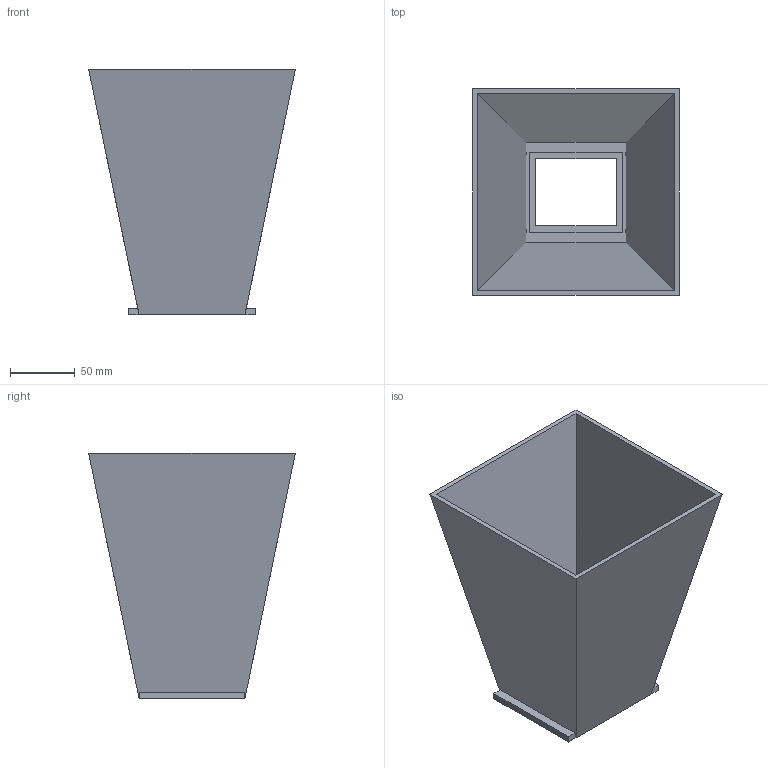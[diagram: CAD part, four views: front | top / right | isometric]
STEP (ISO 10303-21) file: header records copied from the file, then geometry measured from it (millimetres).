
FILE_DESCRIPTION(('Open CASCADE Model'),'2;1');
FILE_NAME('Open CASCADE Shape Model','2026-09-10T23:36:50',('Author'),( 'Open CASCADE'),'Open CASCADE STEP processor 7.9','Open CASCADE 7.9' ,'Unknown');
FILE_SCHEMA(('AUTOMOTIVE_DESIGN { 1 0 10303 214 1 1 1 1 }'));
Length unit declared in the file: millimetre
Products named in the file (1): Open CASCADE STEP translator 7.9 11
Bounding box: 160 x 160 x 190 mm (x, y, z)
Volume: 314337.6 mm3; surface area: 193356.3 mm2
Topology: 1 solids, 1 shells, 44 faces, 104 edges, 68 vertices
Faces by surface type: plane 24, bspline 12, cylinder 8
Entity records: 3151 total; most frequent: CARTESIAN_POINT 1288, DIRECTION 248, ORIENTED_EDGE 208, PCURVE 208, DEFINITIONAL_REPRESENTATION 208, LINE 152, VECTOR 152, B_SPLINE_CURVE_WITH_KNOTS 136
